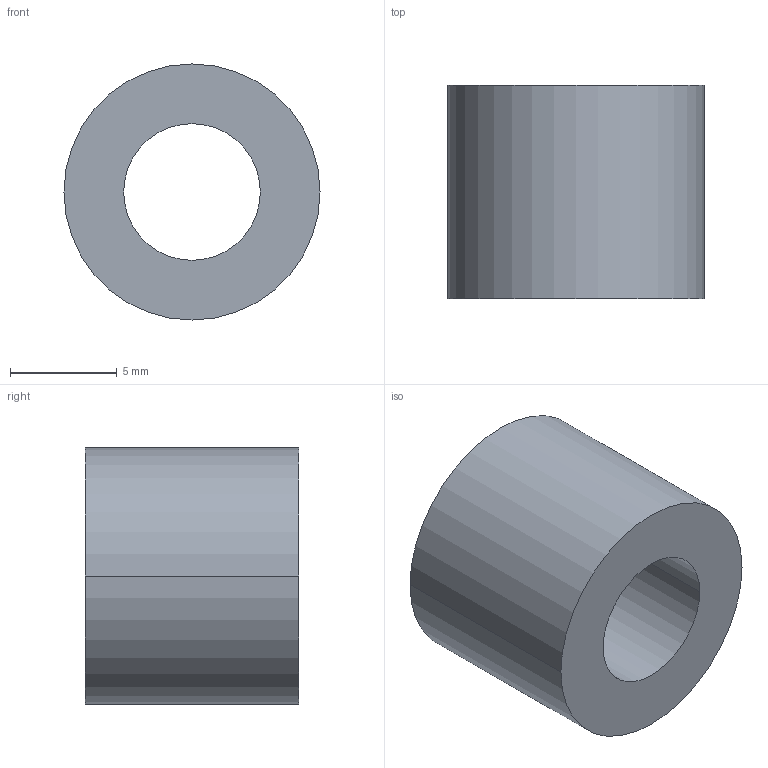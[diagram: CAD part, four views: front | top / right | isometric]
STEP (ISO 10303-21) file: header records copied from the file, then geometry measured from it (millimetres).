
FILE_DESCRIPTION (( 'STEP AP203' ), '1' );
FILE_NAME ('30800.WPP12D6.4.step', '2019-01-23T22:25:25', ( '' ), ( '' ), 'SwSTEP 2.0', 'SolidWorks 2017', '' );
FILE_SCHEMA (( 'CONFIG_CONTROL_DESIGN' ));
Length unit declared in the file: millimetre
Products named in the file (1): 30800.WPP12D6.4
Bounding box: 12 x 10 x 12 mm (x, y, z)
Volume: 798.5 mm3; surface area: 728 mm2
Topology: 1 solids, 1 shells, 8 faces, 16 edges, 10 vertices
Faces by surface type: cylinder 4, torus 2, plane 2
Entity records: 297 total; most frequent: DIRECTION 46, CARTESIAN_POINT 35, ORIENTED_EDGE 32, AXIS2_PLACEMENT_3D 21, EDGE_CURVE 16, CIRCLE 12, EDGE_LOOP 10, VERTEX_POINT 10
